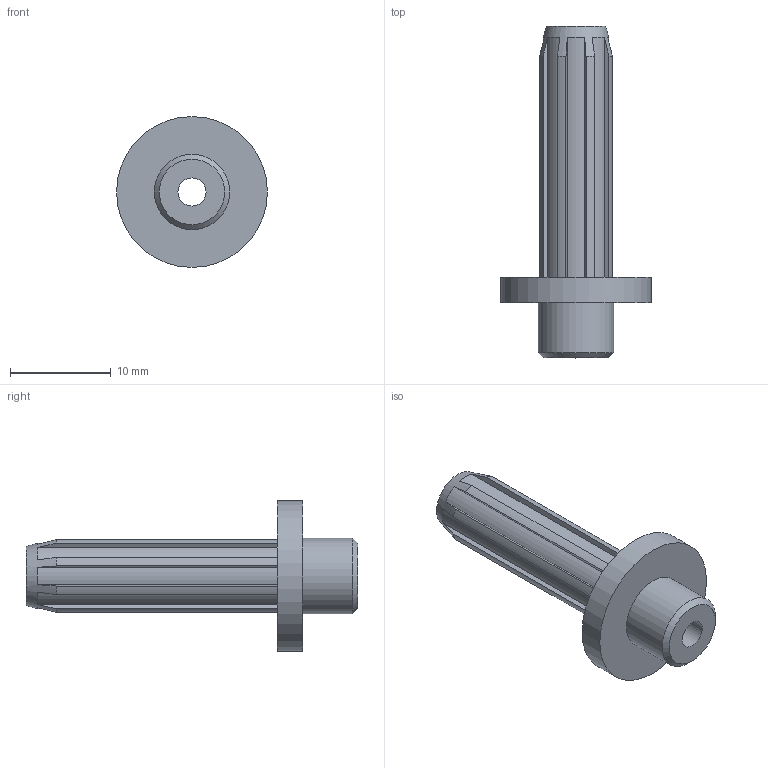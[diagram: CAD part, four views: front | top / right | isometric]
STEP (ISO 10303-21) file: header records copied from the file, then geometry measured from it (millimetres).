
FILE_DESCRIPTION (( 'STEP AP214' ), '1' );
FILE_NAME ('L16102.step', '2024-12-03T16:21:13', ( '' ), ( '' ), 'SwSTEP 2.0', 'SolidWorks 2023', '' );
FILE_SCHEMA (( 'AUTOMOTIVE_DESIGN' ));
Length unit declared in the file: millimetre
Products named in the file (1): L16102
Bounding box: 15 x 33 x 15 mm (x, y, z)
Volume: 1384.1 mm3; surface area: 1579 mm2
Topology: 1 solids, 1 shells, 41 faces, 111 edges, 74 vertices
Faces by surface type: plane 20, cylinder 19, cone 2
Full cylindrical faces by diameter (mm): 2.8 x1, 7.5 x1, 15 x1
Entity records: 1289 total; most frequent: DIRECTION 228, CARTESIAN_POINT 218, ORIENTED_EDGE 208, EDGE_CURVE 104, AXIS2_PLACEMENT_3D 82, VERTEX_POINT 72, LINE 64, VECTOR 64
